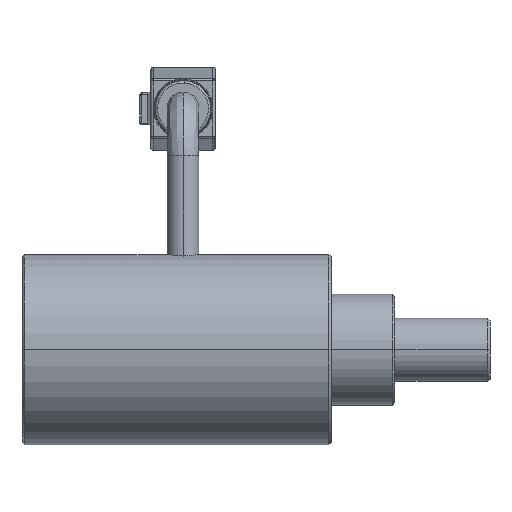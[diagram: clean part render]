
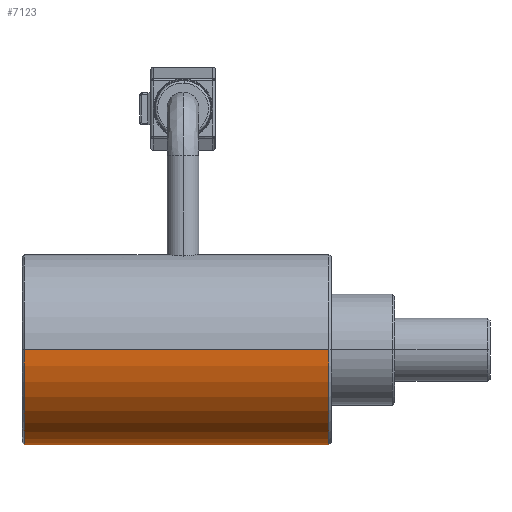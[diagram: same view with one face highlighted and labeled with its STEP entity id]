
A CAD part, top view. The second image highlights one B-rep face of the part: STEP entity #7123.
In plain terms, the highlighted cylindrical face has radius 12 mm (diameter 24 mm), a partial arc.
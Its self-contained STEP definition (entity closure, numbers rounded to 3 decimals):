
#846 = DIRECTION ( 'NONE',  ( 0., 0., 1. ) ) ;
#901 = VECTOR ( 'NONE', #7331, 1000. ) ;
#1303 = VERTEX_POINT ( 'NONE', #5569 ) ;
#1476 = CARTESIAN_POINT ( 'NONE',  ( 0.3, 0., 12. ) ) ;
#1689 = ORIENTED_EDGE ( 'NONE', *, *, #8148, .T. ) ;
#1716 = ORIENTED_EDGE ( 'NONE', *, *, #4691, .T. ) ;
#1861 = CARTESIAN_POINT ( 'NONE',  ( 38.7, 0., 12. ) ) ;
#2396 = AXIS2_PLACEMENT_3D ( 'NONE', #8572, #3164, #5350 ) ;
#2484 = AXIS2_PLACEMENT_3D ( 'NONE', #8513, #5128, #7749 ) ;
#2756 = VERTEX_POINT ( 'NONE', #7565 ) ;
#3164 = DIRECTION ( 'NONE',  ( -1., 0., 0. ) ) ;
#3281 = AXIS2_PLACEMENT_3D ( 'NONE', #6259, #6969, #846 ) ;
#3344 = CIRCLE ( 'NONE', #3281, 12. ) ;
#3794 = CARTESIAN_POINT ( 'NONE',  ( 0., 0., 12. ) ) ;
#4191 = CYLINDRICAL_SURFACE ( 'NONE', #2396, 12. ) ;
#4691 = EDGE_CURVE ( 'NONE', #7333, #1303, #5852, .T. ) ;
#5128 = DIRECTION ( 'NONE',  ( 1., 0., 0. ) ) ;
#5184 = EDGE_CURVE ( 'NONE', #2756, #5993, #3344, .T. ) ;
#5350 = DIRECTION ( 'NONE',  ( 0., 0., 1. ) ) ;
#5512 = EDGE_CURVE ( 'NONE', #2756, #1303, #7427, .T. ) ;
#5569 = CARTESIAN_POINT ( 'NONE',  ( 0.3, 0., -12. ) ) ;
#5852 = CIRCLE ( 'NONE', #2484, 12. ) ;
#5993 = VERTEX_POINT ( 'NONE', #1861 ) ;
#5999 = FACE_OUTER_BOUND ( 'NONE', #6671, .T. ) ;
#6259 = CARTESIAN_POINT ( 'NONE',  ( 38.7, 0., 0. ) ) ;
#6327 = ORIENTED_EDGE ( 'NONE', *, *, #5512, .F. ) ;
#6390 = ORIENTED_EDGE ( 'NONE', *, *, #5184, .T. ) ;
#6466 = DIRECTION ( 'NONE',  ( -1., 0., 0. ) ) ;
#6671 = EDGE_LOOP ( 'NONE', ( #6327, #6390, #1689, #1716 ) ) ;
#6969 = DIRECTION ( 'NONE',  ( -1., 0., 0. ) ) ;
#7123 = ADVANCED_FACE ( 'NONE', ( #5999 ), #4191, .T. ) ;
#7331 = DIRECTION ( 'NONE',  ( -1., 0., 0. ) ) ;
#7333 = VERTEX_POINT ( 'NONE', #1476 ) ;
#7427 = LINE ( 'NONE', #8122, #901 ) ;
#7565 = CARTESIAN_POINT ( 'NONE',  ( 38.7, 0., -12. ) ) ;
#7749 = DIRECTION ( 'NONE',  ( 0., 0., 1. ) ) ;
#7933 = VECTOR ( 'NONE', #6466, 1000. ) ;
#8122 = CARTESIAN_POINT ( 'NONE',  ( 0., 0., -12. ) ) ;
#8148 = EDGE_CURVE ( 'NONE', #5993, #7333, #8341, .T. ) ;
#8341 = LINE ( 'NONE', #3794, #7933 ) ;
#8513 = CARTESIAN_POINT ( 'NONE',  ( 0.3, 0., 0. ) ) ;
#8572 = CARTESIAN_POINT ( 'NONE',  ( 0., 0., 0. ) ) ;
